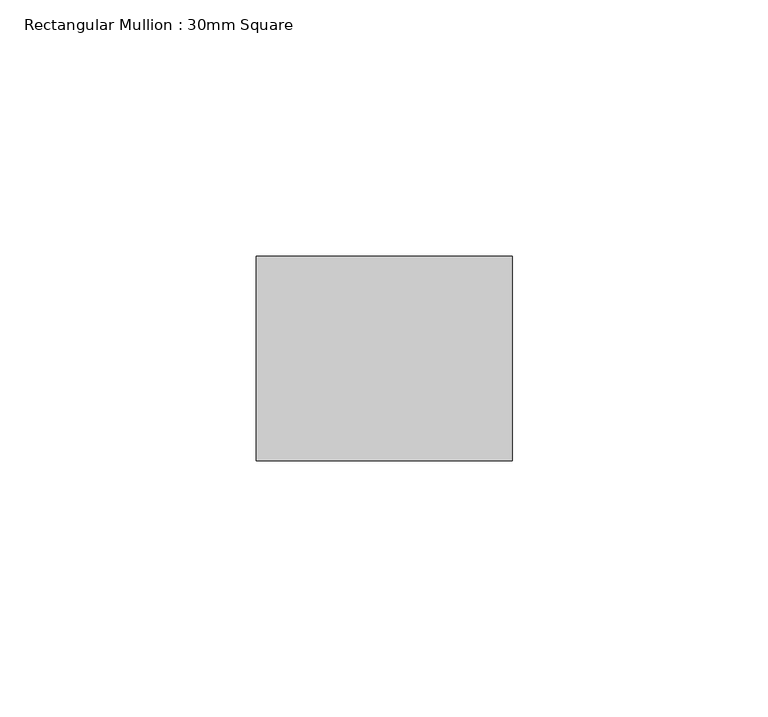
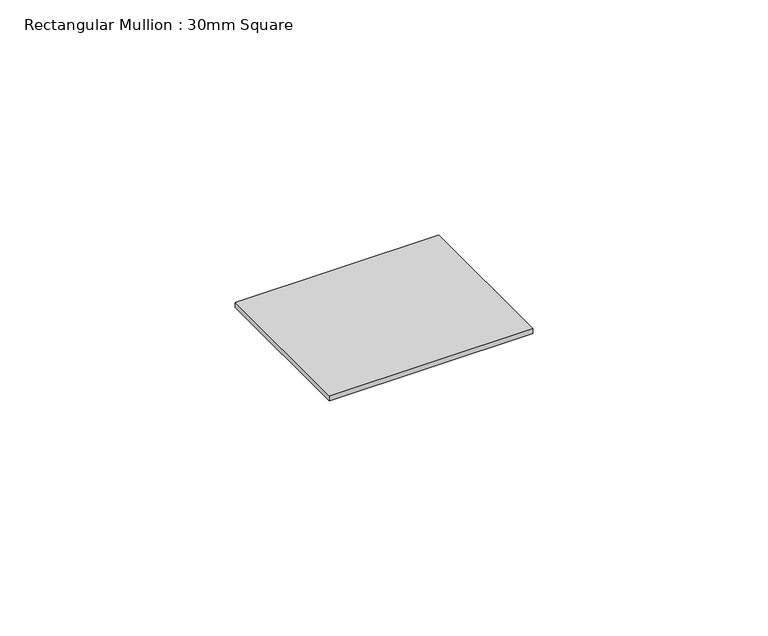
"""IFC4 building model written with IfcOpenShell, lengths in millimetres: member geometry, Rectangular Mullion : 30mm Square."""

from ifc_helpers import new_model, si_unit, frame, origin, place, context, project, spatial, polyline, outline, extrude, source, transform, mapped, element, save


def rectangular_mullion_30mm_square_92fc4059(model_context):
    return source(origin(), model_context, "Body", "SweptSolid", [
        extrude(outline(polyline([(0.0, 20.0), (0.0, -20.0), (-50.0, -20.0), (-50.0, 20.0), (0.0, 20.0)])), frame((0.0, 0.0, -1.3162338), z_axis=(0.0, 0.0, 1.0), x_axis=(1.0, 0.0, 0.0)), (0.0, 0.0, 1.0), 1.3162338),
    ])


if __name__ == "__main__":
    model = new_model("IFC4")
    model_context = context("Model", 3, world=origin())
    ifc_project = project(units=[si_unit("LENGTHUNIT", "METRE", prefix="MILLI")], contexts=[model_context])
    site = spatial("IfcSite", under=ifc_project)
    building = spatial("IfcBuilding", under=site)
    placement = place(None, origin())
    rectangular_mullion_30mm_square_shape = rectangular_mullion_30mm_square_92fc4059(model_context)
    element("IfcMember", 1, ObjectType="Rectangular Mullion : 30mm Square", at=placement, inside=building, context=model_context, shape_type="MappedRepresentation", body=[
        mapped(rectangular_mullion_30mm_square_shape, transform((0.0, 0.0, 0.0), x_axis=(1.0, 0.0, 0.0), y_axis=(0.0, 1.0, 0.0), z_axis=(0.0, 0.0, 1.0))),
    ])
    save(model, "model.ifc")
